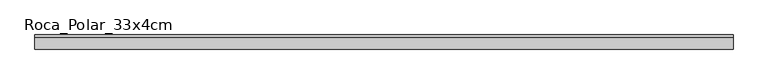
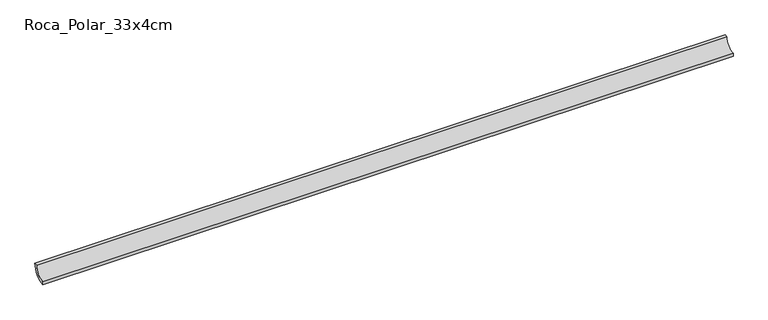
"""IFC4 building model written with IfcOpenShell, lengths in millimetres: proxy geometry, EXAGRES - Half Round Coving : Roca_Polar_33x4cm."""

from ifc_helpers import new_model, si_unit, point, frame, frame_2d, origin, place, context, project, spatial, polyline, circle_curve, trimmed, segment, composite_curve, outline, extrude, source, transform, mapped, element, save


def roca_polar_33x4cm_9eef97b5(model_context):
    return source(origin(), model_context, "Body", "SweptSolid", [
        extrude(outline(composite_curve([segment(polyline([(0.0, 23.9), (6.4, 23.9)]), True, "CONTINUOUS"), segment(trimmed(circle_curve(frame_2d((-23.9, 23.9)), 30.3), [point((6.4, 23.9))], [point((-23.9, -6.4))], False, "CARTESIAN"), True, "CONTINUOUS"), segment(polyline([(-23.9, -6.4), (-23.9, 0.0)]), True, "CONTINUOUS"), segment(trimmed(circle_curve(frame_2d((-23.9, 23.9)), 23.9), [point((-23.9, 0.0))], [point((0.0, 23.9))], True, "CARTESIAN"), True, "CONTINUOUS")], self_intersect=False)), frame((0.0, 0.0, 0.0), z_axis=(1.0, 0.0, 0.0), x_axis=(0.0, 1.0, 0.0)), (0.0, 0.0, 1.0), 1500.0),
    ])


if __name__ == "__main__":
    model = new_model("IFC4")
    model_context = context("Model", 3, world=origin())
    ifc_project = project(units=[si_unit("LENGTHUNIT", "METRE", prefix="MILLI")], contexts=[model_context])
    site = spatial("IfcSite", under=ifc_project)
    building = spatial("IfcBuilding", under=site)
    placement = place(None, origin())
    roca_polar_33x4cm_shape = roca_polar_33x4cm_9eef97b5(model_context)
    element("IfcBuildingElementProxy", 1, Name="EXAGRES - Half Round Coving : Roca_Polar_33x4cm", ObjectType="EXAGRES - Half Round Coving : Roca_Polar_33x4cm", at=placement, inside=building, context=model_context, shape_type="MappedRepresentation", body=[
        mapped(roca_polar_33x4cm_shape, transform((0.0, 0.0, 0.0), x_axis=(1.0, 0.0, 0.0), y_axis=(0.0, 1.0, 0.0), z_axis=(0.0, 0.0, 1.0))),
    ])
    save(model, "model.ifc")
